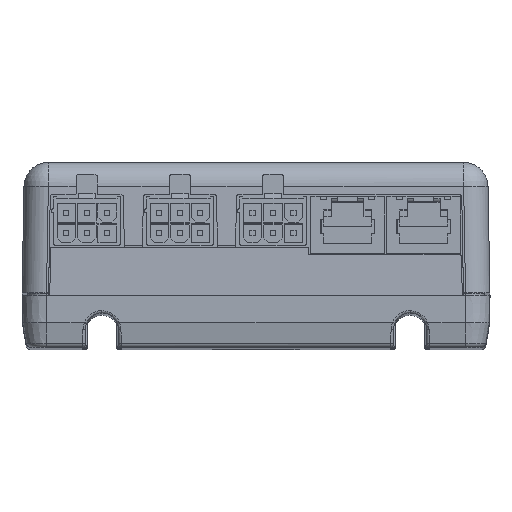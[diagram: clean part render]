
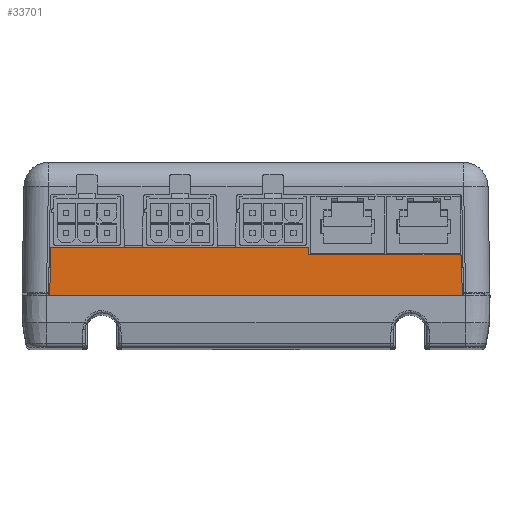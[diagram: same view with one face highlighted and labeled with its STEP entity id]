
A CAD part, top view. The second image highlights one B-rep face of the part: STEP entity #33701.
In plain terms, the highlighted planar face has unit normal (0, 0.018, 1).
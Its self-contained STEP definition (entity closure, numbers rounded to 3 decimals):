
#2692=DIRECTION('',(-0.017,-1.,0.017));
#2693=VECTOR('',#2692,9.312);
#2694=CARTESIAN_POINT('',(-42.129,10.5,199.829));
#2695=LINE('',#2694,#2693);
#3111=DIRECTION('',(1.,0.,0.));
#3112=VECTOR('',#3111,30.863);
#3113=CARTESIAN_POINT('',(10.8,9.05,199.854));
#3114=LINE('',#3113,#3112);
#3115=CARTESIAN_POINT('',(41.663,9.05,199.854));
#3116=CARTESIAN_POINT('',(41.757,9.05,199.854));
#3117=CARTESIAN_POINT('',(41.92,9.004,199.855));
#3118=CARTESIAN_POINT('',(42.112,8.815,199.858));
#3119=CARTESIAN_POINT('',(42.161,8.653,199.861));
#3120=CARTESIAN_POINT('',(42.163,8.559,199.863));
#3122=DIRECTION('',(0.017,-1.,0.017));
#3123=VECTOR('',#3122,7.37);
#3124=CARTESIAN_POINT('',(42.163,8.559,199.863));
#3125=LINE('',#3124,#3123);
#3126=CARTESIAN_POINT('',(42.291,1.191,199.991));
#3127=CARTESIAN_POINT('',(42.293,1.097,199.993));
#3128=CARTESIAN_POINT('',(42.342,0.935,199.996));
#3129=CARTESIAN_POINT('',(42.534,0.746,199.999));
#3130=CARTESIAN_POINT('',(42.697,0.7,200.));
#3131=CARTESIAN_POINT('',(42.791,0.7,200.));
#3133=CARTESIAN_POINT('',(-42.791,0.7,200.));
#3134=CARTESIAN_POINT('',(-42.697,0.7,200.));
#3135=CARTESIAN_POINT('',(-42.534,0.746,
199.999));
#3136=CARTESIAN_POINT('',(-42.342,0.935,
199.996));
#3137=CARTESIAN_POINT('',(-42.293,1.097,199.993));
#3138=CARTESIAN_POINT('',(-42.291,1.191,199.991));
#3140=DIRECTION('',(1.,0.,0.));
#3141=VECTOR('',#3140,52.929);
#3142=CARTESIAN_POINT('',(-42.129,10.5,199.829));
#3143=LINE('',#3142,#3141);
#3144=DIRECTION('',(0.,-1.,0.017));
#3145=VECTOR('',#3144,1.45);
#3146=CARTESIAN_POINT('',(10.8,10.5,199.829));
#3147=LINE('',#3146,#3145);
#3162=DIRECTION('',(1.,0.,0.));
#3163=VECTOR('',#3162,85.583);
#3164=CARTESIAN_POINT('',(-42.791,0.7,200.));
#3165=LINE('',#3164,#3163);
#25357=CARTESIAN_POINT('',(42.791,0.7,200.));
#25358=VERTEX_POINT('',#25357);
#25369=CARTESIAN_POINT('',(-42.791,0.7,200.));
#25371=VERTEX_POINT('',#25369);
#26572=CARTESIAN_POINT('',(-42.129,10.5,199.829));
#26573=VERTEX_POINT('',#26572);
#26574=CARTESIAN_POINT('',(-42.291,1.191,
199.991));
#26575=VERTEX_POINT('',#26574);
#26580=CARTESIAN_POINT('',(10.8,9.05,199.854));
#26581=VERTEX_POINT('',#26580);
#26582=CARTESIAN_POINT('',(10.8,10.5,199.829));
#26583=VERTEX_POINT('',#26582);
#26584=CARTESIAN_POINT('',(41.663,9.05,199.854));
#26585=VERTEX_POINT('',#26584);
#26586=CARTESIAN_POINT('',(42.163,8.559,199.863));
#26587=VERTEX_POINT('',#26586);
#26590=CARTESIAN_POINT('',(42.291,1.191,199.991));
#26591=VERTEX_POINT('',#26590);
#33682=CARTESIAN_POINT('',(10.8,0.7,200.));
#33683=DIRECTION('',(0.,0.017,1.));
#33684=DIRECTION('',(0.,1.,-0.017));
#33685=AXIS2_PLACEMENT_3D('',#33682,#33683,#33684);
#33686=PLANE('',#33685);
#33687=ORIENTED_EDGE('',*,*,#33649,.T.);
#33688=ORIENTED_EDGE('',*,*,#33669,.T.);
#33689=ORIENTED_EDGE('',*,*,#30761,.T.);
#33691=ORIENTED_EDGE('',*,*,#33690,.T.);
#33693=ORIENTED_EDGE('',*,*,#33692,.F.);
#33694=ORIENTED_EDGE('',*,*,#33124,.T.);
#33695=ORIENTED_EDGE('',*,*,#33171,.F.);
#33697=ORIENTED_EDGE('',*,*,#33696,.T.);
#33698=ORIENTED_EDGE('',*,*,#33624,.T.);
#33699=EDGE_LOOP('',(#33687,#33688,#33689,#33691,#33693,#33694,#33695,#33697,
#33698));
#33700=FACE_OUTER_BOUND('',#33699,.F.);
#3121=B_SPLINE_CURVE_WITH_KNOTS('',3,(#3115,#3116,#3117,#3118,#3119,#3120),
.UNSPECIFIED.,.F.,.F.,(4,1,1,4),(0.,0.333,0.667,1.),
.UNSPECIFIED.);
#3132=B_SPLINE_CURVE_WITH_KNOTS('',3,(#3126,#3127,#3128,#3129,#3130,#3131),
.UNSPECIFIED.,.F.,.F.,(4,1,1,4),(0.,0.333,0.667,1.),
.UNSPECIFIED.);
#3139=B_SPLINE_CURVE_WITH_KNOTS('',3,(#3133,#3134,#3135,#3136,#3137,#3138),
.UNSPECIFIED.,.F.,.F.,(4,1,1,4),(0.,0.333,0.667,1.),
.UNSPECIFIED.);
#30761=EDGE_CURVE('',#26587,#26591,#3125,.T.);
#33124=EDGE_CURVE('',#25371,#26575,#3139,.T.);
#33171=EDGE_CURVE('',#26573,#26575,#2695,.T.);
#33624=EDGE_CURVE('',#26583,#26581,#3147,.T.);
#33649=EDGE_CURVE('',#26581,#26585,#3114,.T.);
#33669=EDGE_CURVE('',#26585,#26587,#3121,.T.);
#33690=EDGE_CURVE('',#26591,#25358,#3132,.T.);
#33692=EDGE_CURVE('',#25371,#25358,#3165,.T.);
#33696=EDGE_CURVE('',#26573,#26583,#3143,.T.);
#33701=ADVANCED_FACE('',(#33700),#33686,.T.);
